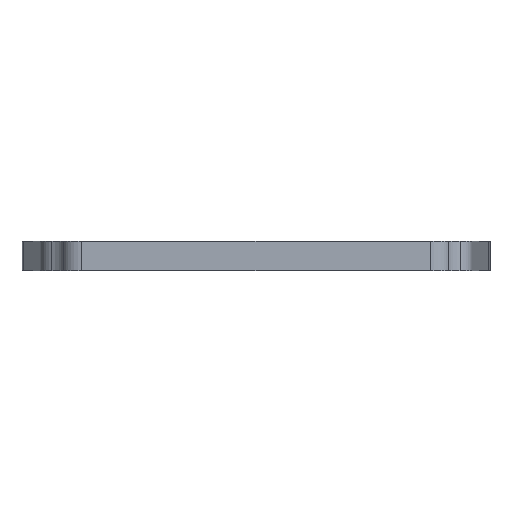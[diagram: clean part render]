
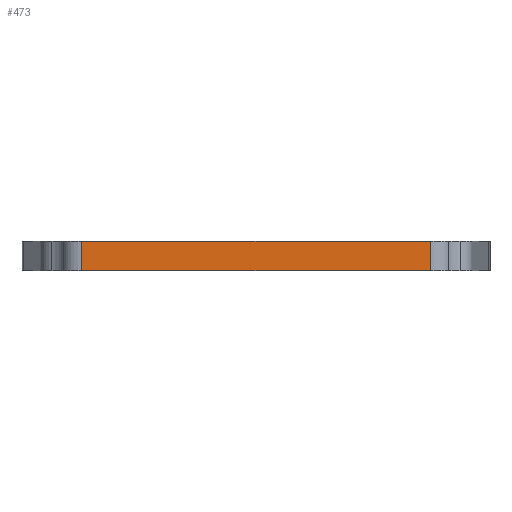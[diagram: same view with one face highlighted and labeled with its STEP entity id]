
A CAD part, front view. The second image highlights one B-rep face of the part: STEP entity #473.
In plain terms, the highlighted planar face has unit normal (0, -1, 0).
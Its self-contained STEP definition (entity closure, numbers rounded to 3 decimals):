
#446=AXIS2_PLACEMENT_3D('Plane Axis2P3D',#443,#444,#445) ;
#421=CARTESIAN_POINT('Vertex',(-228.416,-109.754,0.)) ;
#424=CARTESIAN_POINT('Line Origine',(-228.416,-109.754,2.5)) ;
#428=CARTESIAN_POINT('Vertex',(-228.416,-109.754,5.)) ;
#443=CARTESIAN_POINT('Axis2P3D Location',(-228.416,-109.754,5.)) ;
#448=CARTESIAN_POINT('Line Origine',(-198.96,-109.754,0.)) ;
#452=CARTESIAN_POINT('Vertex',(-169.504,-109.754,0.)) ;
#455=CARTESIAN_POINT('Line Origine',(-169.504,-109.754,2.5)) ;
#459=CARTESIAN_POINT('Vertex',(-169.504,-109.754,5.)) ;
#462=CARTESIAN_POINT('Line Origine',(-198.96,-109.754,5.)) ;
#425=DIRECTION('Vector Direction',(0.,0.,1.)) ;
#444=DIRECTION('Axis2P3D Direction',(-0.,1.,0.)) ;
#445=DIRECTION('Axis2P3D XDirection',(1.,0.,0.)) ;
#449=DIRECTION('Vector Direction',(1.,0.,0.)) ;
#456=DIRECTION('Vector Direction',(0.,0.,-1.)) ;
#463=DIRECTION('Vector Direction',(1.,0.,0.)) ;
#426=VECTOR('Line Direction',#425,1.) ;
#450=VECTOR('Line Direction',#449,1.) ;
#457=VECTOR('Line Direction',#456,1.) ;
#464=VECTOR('Line Direction',#463,1.) ;
#468=ORIENTED_EDGE('',*,*,#454,.T.) ;
#469=ORIENTED_EDGE('',*,*,#461,.F.) ;
#470=ORIENTED_EDGE('',*,*,#466,.F.) ;
#471=ORIENTED_EDGE('',*,*,#430,.T.) ;
#473=ADVANCED_FACE('\X2\BCF8CCB4\X0\3',(#472),#447,.F.) ;
#430=EDGE_CURVE('',#429,#422,#427,.F.) ;
#454=EDGE_CURVE('',#422,#453,#451,.T.) ;
#461=EDGE_CURVE('',#460,#453,#458,.T.) ;
#466=EDGE_CURVE('',#429,#460,#465,.T.) ;
#467=EDGE_LOOP('',(#468,#469,#470,#471)) ;
#472=FACE_OUTER_BOUND('',#467,.T.) ;
#427=LINE('Line',#424,#426) ;
#451=LINE('Line',#448,#450) ;
#458=LINE('Line',#455,#457) ;
#465=LINE('Line',#462,#464) ;
#447=PLANE('',#446) ;
#422=VERTEX_POINT('',#421) ;
#429=VERTEX_POINT('',#428) ;
#453=VERTEX_POINT('',#452) ;
#460=VERTEX_POINT('',#459) ;
